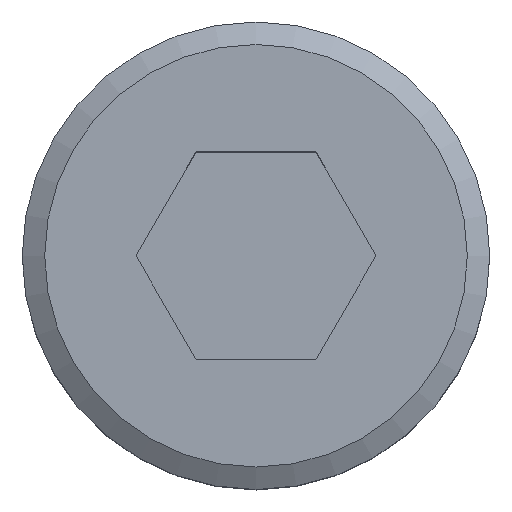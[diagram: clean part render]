
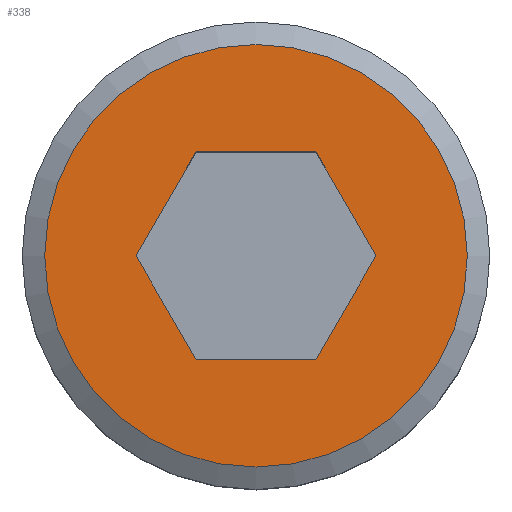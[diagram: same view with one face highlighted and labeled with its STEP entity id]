
A CAD part, top view. The second image highlights one B-rep face of the part: STEP entity #338.
In plain terms, the highlighted planar face has unit normal (0, 0, 1).
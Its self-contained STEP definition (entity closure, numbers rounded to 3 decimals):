
#272 = CONICAL_SURFACE('',#273,2.142,1.047);
#273 = AXIS2_PLACEMENT_3D('',#274,#275,#276);
#274 = CARTESIAN_POINT('',(-32.,17.,192.638));
#275 = DIRECTION('',(0.,0.,-1.));
#276 = DIRECTION('',(0.,-1.,0.));
#288 = EDGE_CURVE('',#289,#289,#291,.T.);
#289 = VERTEX_POINT('',#290);
#290 = CARTESIAN_POINT('',(-34.033,17.,192.7));
#291 = SURFACE_CURVE('',#292,(#297,#304),.PCURVE_S1.);
#292 = CIRCLE('',#293,2.033);
#293 = AXIS2_PLACEMENT_3D('',#294,#295,#296);
#294 = CARTESIAN_POINT('',(-32.,17.,192.7));
#295 = DIRECTION('',(0.,0.,-1.));
#296 = DIRECTION('',(-1.,0.,0.));
#297 = PCURVE('',#272,#298);
#298 = DEFINITIONAL_REPRESENTATION('',(#299),#303);
#299 = LINE('',#300,#301);
#300 = CARTESIAN_POINT('',(1.571,-0.063));
#301 = VECTOR('',#302,1.);
#302 = DIRECTION('',(1.,0.));
#303 = ( GEOMETRIC_REPRESENTATION_CONTEXT(2) 
PARAMETRIC_REPRESENTATION_CONTEXT() REPRESENTATION_CONTEXT('2D SPACE',''
  ) );
#304 = PCURVE('',#305,#310);
#305 = PLANE('',#306);
#306 = AXIS2_PLACEMENT_3D('',#307,#308,#309);
#307 = CARTESIAN_POINT('',(-32.,17.,192.7));
#308 = DIRECTION('',(0.,0.,-1.));
#309 = DIRECTION('',(-1.,0.,-0.));
#310 = DEFINITIONAL_REPRESENTATION('',(#311),#315);
#311 = CIRCLE('',#312,2.033);
#312 = AXIS2_PLACEMENT_2D('',#313,#314);
#313 = CARTESIAN_POINT('',(0.,0.));
#314 = DIRECTION('',(1.,0.));
#315 = ( GEOMETRIC_REPRESENTATION_CONTEXT(2) 
PARAMETRIC_REPRESENTATION_CONTEXT() REPRESENTATION_CONTEXT('2D SPACE',''
  ) );
#338 = ADVANCED_FACE('',(#339,#342),#305,.F.);
#339 = FACE_BOUND('',#340,.T.);
#340 = EDGE_LOOP('',(#341));
#341 = ORIENTED_EDGE('',*,*,#288,.F.);
#342 = FACE_BOUND('',#343,.T.);
#343 = EDGE_LOOP('',(#344,#374,#402,#430,#458,#486));
#344 = ORIENTED_EDGE('',*,*,#345,.F.);
#345 = EDGE_CURVE('',#346,#348,#350,.T.);
#346 = VERTEX_POINT('',#347);
#347 = CARTESIAN_POINT('',(-31.423,16.,192.7));
#348 = VERTEX_POINT('',#349);
#349 = CARTESIAN_POINT('',(-30.845,17.,192.7));
#350 = SURFACE_CURVE('',#351,(#355,#362),.PCURVE_S1.);
#351 = LINE('',#352,#353);
#352 = CARTESIAN_POINT('',(-31.423,16.,192.7));
#353 = VECTOR('',#354,1.);
#354 = DIRECTION('',(0.5,0.866,0.));
#355 = PCURVE('',#305,#356);
#356 = DEFINITIONAL_REPRESENTATION('',(#357),#361);
#357 = LINE('',#358,#359);
#358 = CARTESIAN_POINT('',(-0.577,-1.));
#359 = VECTOR('',#360,1.);
#360 = DIRECTION('',(-0.5,0.866));
#361 = ( GEOMETRIC_REPRESENTATION_CONTEXT(2) 
PARAMETRIC_REPRESENTATION_CONTEXT() REPRESENTATION_CONTEXT('2D SPACE',''
  ) );
#362 = PCURVE('',#363,#368);
#363 = PLANE('',#364);
#364 = AXIS2_PLACEMENT_3D('',#365,#366,#367);
#365 = CARTESIAN_POINT('',(-31.423,16.,192.7));
#366 = DIRECTION('',(0.866,-0.5,0.));
#367 = DIRECTION('',(0.5,0.866,0.));
#368 = DEFINITIONAL_REPRESENTATION('',(#369),#373);
#369 = LINE('',#370,#371);
#370 = CARTESIAN_POINT('',(0.,0.));
#371 = VECTOR('',#372,1.);
#372 = DIRECTION('',(1.,0.));
#373 = ( GEOMETRIC_REPRESENTATION_CONTEXT(2) 
PARAMETRIC_REPRESENTATION_CONTEXT() REPRESENTATION_CONTEXT('2D SPACE',''
  ) );
#374 = ORIENTED_EDGE('',*,*,#375,.T.);
#375 = EDGE_CURVE('',#346,#376,#378,.T.);
#376 = VERTEX_POINT('',#377);
#377 = CARTESIAN_POINT('',(-32.577,16.,192.7));
#378 = SURFACE_CURVE('',#379,(#383,#390),.PCURVE_S1.);
#379 = LINE('',#380,#381);
#380 = CARTESIAN_POINT('',(-32.,16.,192.7));
#381 = VECTOR('',#382,1.);
#382 = DIRECTION('',(-1.,0.,0.));
#383 = PCURVE('',#305,#384);
#384 = DEFINITIONAL_REPRESENTATION('',(#385),#389);
#385 = LINE('',#386,#387);
#386 = CARTESIAN_POINT('',(0.,-1.));
#387 = VECTOR('',#388,1.);
#388 = DIRECTION('',(1.,0.));
#389 = ( GEOMETRIC_REPRESENTATION_CONTEXT(2) 
PARAMETRIC_REPRESENTATION_CONTEXT() REPRESENTATION_CONTEXT('2D SPACE',''
  ) );
#390 = PCURVE('',#391,#396);
#391 = PLANE('',#392);
#392 = AXIS2_PLACEMENT_3D('',#393,#394,#395);
#393 = CARTESIAN_POINT('',(-32.577,16.,192.7));
#394 = DIRECTION('',(0.,-1.,0.));
#395 = DIRECTION('',(1.,0.,0.));
#396 = DEFINITIONAL_REPRESENTATION('',(#397),#401);
#397 = LINE('',#398,#399);
#398 = CARTESIAN_POINT('',(0.577,0.));
#399 = VECTOR('',#400,1.);
#400 = DIRECTION('',(-1.,0.));
#401 = ( GEOMETRIC_REPRESENTATION_CONTEXT(2) 
PARAMETRIC_REPRESENTATION_CONTEXT() REPRESENTATION_CONTEXT('2D SPACE',''
  ) );
#402 = ORIENTED_EDGE('',*,*,#403,.F.);
#403 = EDGE_CURVE('',#404,#376,#406,.T.);
#404 = VERTEX_POINT('',#405);
#405 = CARTESIAN_POINT('',(-33.155,17.,192.7));
#406 = SURFACE_CURVE('',#407,(#411,#418),.PCURVE_S1.);
#407 = LINE('',#408,#409);
#408 = CARTESIAN_POINT('',(-33.155,17.,192.7));
#409 = VECTOR('',#410,1.);
#410 = DIRECTION('',(0.5,-0.866,0.));
#411 = PCURVE('',#305,#412);
#412 = DEFINITIONAL_REPRESENTATION('',(#413),#417);
#413 = LINE('',#414,#415);
#414 = CARTESIAN_POINT('',(1.155,0.));
#415 = VECTOR('',#416,1.);
#416 = DIRECTION('',(-0.5,-0.866));
#417 = ( GEOMETRIC_REPRESENTATION_CONTEXT(2) 
PARAMETRIC_REPRESENTATION_CONTEXT() REPRESENTATION_CONTEXT('2D SPACE',''
  ) );
#418 = PCURVE('',#419,#424);
#419 = PLANE('',#420);
#420 = AXIS2_PLACEMENT_3D('',#421,#422,#423);
#421 = CARTESIAN_POINT('',(-33.155,17.,192.7));
#422 = DIRECTION('',(-0.866,-0.5,0.));
#423 = DIRECTION('',(0.5,-0.866,0.));
#424 = DEFINITIONAL_REPRESENTATION('',(#425),#429);
#425 = LINE('',#426,#427);
#426 = CARTESIAN_POINT('',(0.,0.));
#427 = VECTOR('',#428,1.);
#428 = DIRECTION('',(1.,0.));
#429 = ( GEOMETRIC_REPRESENTATION_CONTEXT(2) 
PARAMETRIC_REPRESENTATION_CONTEXT() REPRESENTATION_CONTEXT('2D SPACE',''
  ) );
#430 = ORIENTED_EDGE('',*,*,#431,.F.);
#431 = EDGE_CURVE('',#432,#404,#434,.T.);
#432 = VERTEX_POINT('',#433);
#433 = CARTESIAN_POINT('',(-32.577,18.,192.7));
#434 = SURFACE_CURVE('',#435,(#439,#446),.PCURVE_S1.);
#435 = LINE('',#436,#437);
#436 = CARTESIAN_POINT('',(-32.577,18.,192.7));
#437 = VECTOR('',#438,1.);
#438 = DIRECTION('',(-0.5,-0.866,0.));
#439 = PCURVE('',#305,#440);
#440 = DEFINITIONAL_REPRESENTATION('',(#441),#445);
#441 = LINE('',#442,#443);
#442 = CARTESIAN_POINT('',(0.577,1.));
#443 = VECTOR('',#444,1.);
#444 = DIRECTION('',(0.5,-0.866));
#445 = ( GEOMETRIC_REPRESENTATION_CONTEXT(2) 
PARAMETRIC_REPRESENTATION_CONTEXT() REPRESENTATION_CONTEXT('2D SPACE',''
  ) );
#446 = PCURVE('',#447,#452);
#447 = PLANE('',#448);
#448 = AXIS2_PLACEMENT_3D('',#449,#450,#451);
#449 = CARTESIAN_POINT('',(-32.577,18.,192.7));
#450 = DIRECTION('',(-0.866,0.5,0.));
#451 = DIRECTION('',(-0.5,-0.866,0.));
#452 = DEFINITIONAL_REPRESENTATION('',(#453),#457);
#453 = LINE('',#454,#455);
#454 = CARTESIAN_POINT('',(0.,0.));
#455 = VECTOR('',#456,1.);
#456 = DIRECTION('',(1.,0.));
#457 = ( GEOMETRIC_REPRESENTATION_CONTEXT(2) 
PARAMETRIC_REPRESENTATION_CONTEXT() REPRESENTATION_CONTEXT('2D SPACE',''
  ) );
#458 = ORIENTED_EDGE('',*,*,#459,.F.);
#459 = EDGE_CURVE('',#460,#432,#462,.T.);
#460 = VERTEX_POINT('',#461);
#461 = CARTESIAN_POINT('',(-31.423,18.,192.7));
#462 = SURFACE_CURVE('',#463,(#467,#474),.PCURVE_S1.);
#463 = LINE('',#464,#465);
#464 = CARTESIAN_POINT('',(-32.,18.,192.7));
#465 = VECTOR('',#466,1.);
#466 = DIRECTION('',(-1.,0.,0.));
#467 = PCURVE('',#305,#468);
#468 = DEFINITIONAL_REPRESENTATION('',(#469),#473);
#469 = LINE('',#470,#471);
#470 = CARTESIAN_POINT('',(0.,1.));
#471 = VECTOR('',#472,1.);
#472 = DIRECTION('',(1.,0.));
#473 = ( GEOMETRIC_REPRESENTATION_CONTEXT(2) 
PARAMETRIC_REPRESENTATION_CONTEXT() REPRESENTATION_CONTEXT('2D SPACE',''
  ) );
#474 = PCURVE('',#475,#480);
#475 = PLANE('',#476);
#476 = AXIS2_PLACEMENT_3D('',#477,#478,#479);
#477 = CARTESIAN_POINT('',(-31.423,18.,192.7));
#478 = DIRECTION('',(0.,1.,0.));
#479 = DIRECTION('',(-1.,0.,0.));
#480 = DEFINITIONAL_REPRESENTATION('',(#481),#485);
#481 = LINE('',#482,#483);
#482 = CARTESIAN_POINT('',(0.577,0.));
#483 = VECTOR('',#484,1.);
#484 = DIRECTION('',(1.,0.));
#485 = ( GEOMETRIC_REPRESENTATION_CONTEXT(2) 
PARAMETRIC_REPRESENTATION_CONTEXT() REPRESENTATION_CONTEXT('2D SPACE',''
  ) );
#486 = ORIENTED_EDGE('',*,*,#487,.F.);
#487 = EDGE_CURVE('',#348,#460,#488,.T.);
#488 = SURFACE_CURVE('',#489,(#493,#500),.PCURVE_S1.);
#489 = LINE('',#490,#491);
#490 = CARTESIAN_POINT('',(-30.845,17.,192.7));
#491 = VECTOR('',#492,1.);
#492 = DIRECTION('',(-0.5,0.866,0.));
#493 = PCURVE('',#305,#494);
#494 = DEFINITIONAL_REPRESENTATION('',(#495),#499);
#495 = LINE('',#496,#497);
#496 = CARTESIAN_POINT('',(-1.155,0.));
#497 = VECTOR('',#498,1.);
#498 = DIRECTION('',(0.5,0.866));
#499 = ( GEOMETRIC_REPRESENTATION_CONTEXT(2) 
PARAMETRIC_REPRESENTATION_CONTEXT() REPRESENTATION_CONTEXT('2D SPACE',''
  ) );
#500 = PCURVE('',#501,#506);
#501 = PLANE('',#502);
#502 = AXIS2_PLACEMENT_3D('',#503,#504,#505);
#503 = CARTESIAN_POINT('',(-30.845,17.,192.7));
#504 = DIRECTION('',(0.866,0.5,0.));
#505 = DIRECTION('',(-0.5,0.866,0.));
#506 = DEFINITIONAL_REPRESENTATION('',(#507),#511);
#507 = LINE('',#508,#509);
#508 = CARTESIAN_POINT('',(0.,0.));
#509 = VECTOR('',#510,1.);
#510 = DIRECTION('',(1.,0.));
#511 = ( GEOMETRIC_REPRESENTATION_CONTEXT(2) 
PARAMETRIC_REPRESENTATION_CONTEXT() REPRESENTATION_CONTEXT('2D SPACE',''
  ) );
